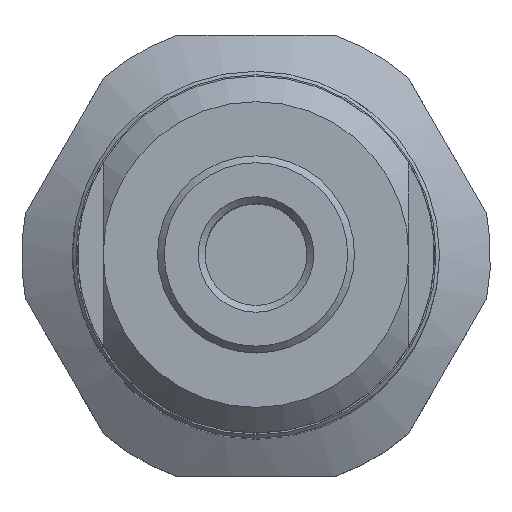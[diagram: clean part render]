
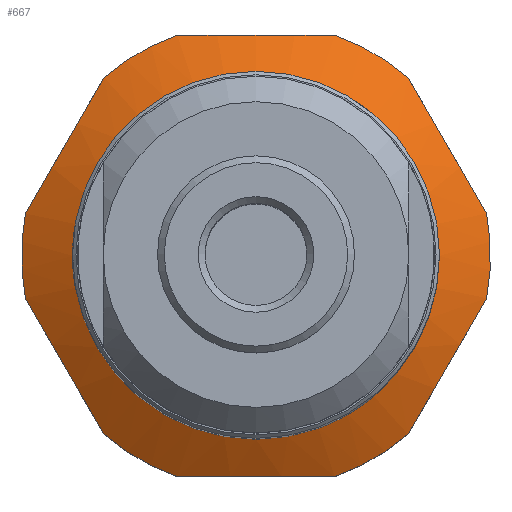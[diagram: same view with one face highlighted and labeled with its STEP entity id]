
A CAD part, top view. The second image highlights one B-rep face of the part: STEP entity #667.
In plain terms, the highlighted conical face has half-angle 60 degrees and reference radius 6.15 mm.
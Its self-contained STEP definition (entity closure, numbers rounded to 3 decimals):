
#58=(
BOUNDED_CURVE()
B_SPLINE_CURVE(2,(#1069,#1070,#1071),.UNSPECIFIED.,.F.,.F.)
B_SPLINE_CURVE_WITH_KNOTS((3,3),(0.,0.465),.UNSPECIFIED.)
CURVE()
GEOMETRIC_REPRESENTATION_ITEM()
RATIONAL_B_SPLINE_CURVE((1.,1.062,1.))
REPRESENTATION_ITEM('')
);
#61=(
BOUNDED_CURVE()
B_SPLINE_CURVE(2,(#1086,#1087,#1088),.UNSPECIFIED.,.F.,.F.)
B_SPLINE_CURVE_WITH_KNOTS((3,3),(0.,0.465),.UNSPECIFIED.)
CURVE()
GEOMETRIC_REPRESENTATION_ITEM()
RATIONAL_B_SPLINE_CURVE((1.,1.062,1.))
REPRESENTATION_ITEM('')
);
#64=(
BOUNDED_CURVE()
B_SPLINE_CURVE(2,(#1103,#1104,#1105),.UNSPECIFIED.,.F.,.F.)
B_SPLINE_CURVE_WITH_KNOTS((3,3),(0.,0.465),.UNSPECIFIED.)
CURVE()
GEOMETRIC_REPRESENTATION_ITEM()
RATIONAL_B_SPLINE_CURVE((1.,1.062,1.))
REPRESENTATION_ITEM('')
);
#67=(
BOUNDED_CURVE()
B_SPLINE_CURVE(2,(#1120,#1121,#1122),.UNSPECIFIED.,.F.,.F.)
B_SPLINE_CURVE_WITH_KNOTS((3,3),(0.,0.465),.UNSPECIFIED.)
CURVE()
GEOMETRIC_REPRESENTATION_ITEM()
RATIONAL_B_SPLINE_CURVE((1.,1.062,1.))
REPRESENTATION_ITEM('')
);
#69=(
BOUNDED_CURVE()
B_SPLINE_CURVE(2,(#1131,#1132,#1133),.UNSPECIFIED.,.F.,.F.)
B_SPLINE_CURVE_WITH_KNOTS((3,3),(0.,0.465),.UNSPECIFIED.)
CURVE()
GEOMETRIC_REPRESENTATION_ITEM()
RATIONAL_B_SPLINE_CURVE((1.,1.062,1.))
REPRESENTATION_ITEM('')
);
#72=(
BOUNDED_CURVE()
B_SPLINE_CURVE(2,(#1148,#1149,#1150),.UNSPECIFIED.,.F.,.F.)
B_SPLINE_CURVE_WITH_KNOTS((3,3),(0.,0.465),.UNSPECIFIED.)
CURVE()
GEOMETRIC_REPRESENTATION_ITEM()
RATIONAL_B_SPLINE_CURVE((1.,1.062,1.))
REPRESENTATION_ITEM('')
);
#86=CONICAL_SURFACE('',#753,6.15,60.);
#103=FACE_BOUND('',#225,.T.);
#166=FACE_OUTER_BOUND('',#224,.T.);
#224=EDGE_LOOP('',(#565,#566,#567,#568,#569,#570,#571,#572,#573,#574,#575,
#576));
#225=EDGE_LOOP('',(#577));
#268=CIRCLE('',#730,6.9);
#269=CIRCLE('',#732,6.9);
#271=CIRCLE('',#735,6.9);
#274=CIRCLE('',#739,6.9);
#275=CIRCLE('',#741,6.9);
#282=CIRCLE('',#754,6.9);
#283=CIRCLE('',#755,5.4);
#316=VERTEX_POINT('',#1066);
#317=VERTEX_POINT('',#1068);
#321=VERTEX_POINT('',#1083);
#322=VERTEX_POINT('',#1085);
#326=VERTEX_POINT('',#1100);
#327=VERTEX_POINT('',#1102);
#331=VERTEX_POINT('',#1117);
#332=VERTEX_POINT('',#1119);
#334=VERTEX_POINT('',#1129);
#335=VERTEX_POINT('',#1130);
#339=VERTEX_POINT('',#1146);
#340=VERTEX_POINT('',#1147);
#344=VERTEX_POINT('',#1189);
#384=EDGE_CURVE('',#317,#316,#58,.T.);
#389=EDGE_CURVE('',#322,#321,#61,.T.);
#394=EDGE_CURVE('',#327,#326,#64,.T.);
#399=EDGE_CURVE('',#332,#331,#67,.T.);
#402=EDGE_CURVE('',#334,#335,#69,.T.);
#407=EDGE_CURVE('',#339,#340,#72,.T.);
#413=EDGE_CURVE('',#339,#335,#268,.T.);
#414=EDGE_CURVE('',#327,#340,#269,.T.);
#416=EDGE_CURVE('',#322,#331,#271,.T.);
#419=EDGE_CURVE('',#332,#326,#274,.T.);
#420=EDGE_CURVE('',#317,#321,#275,.T.);
#427=EDGE_CURVE('',#334,#316,#282,.T.);
#428=EDGE_CURVE('',#344,#344,#283,.T.);
#565=ORIENTED_EDGE('',*,*,#384,.T.);
#566=ORIENTED_EDGE('',*,*,#427,.F.);
#567=ORIENTED_EDGE('',*,*,#402,.T.);
#568=ORIENTED_EDGE('',*,*,#413,.F.);
#569=ORIENTED_EDGE('',*,*,#407,.T.);
#570=ORIENTED_EDGE('',*,*,#414,.F.);
#571=ORIENTED_EDGE('',*,*,#394,.T.);
#572=ORIENTED_EDGE('',*,*,#419,.F.);
#573=ORIENTED_EDGE('',*,*,#399,.T.);
#574=ORIENTED_EDGE('',*,*,#416,.F.);
#575=ORIENTED_EDGE('',*,*,#389,.T.);
#576=ORIENTED_EDGE('',*,*,#420,.F.);
#577=ORIENTED_EDGE('',*,*,#428,.T.);
#667=ADVANCED_FACE('',(#166,#103),#86,.T.);
#730=AXIS2_PLACEMENT_3D('',#1164,#889,#890);
#732=AXIS2_PLACEMENT_3D('',#1166,#893,#894);
#735=AXIS2_PLACEMENT_3D('',#1169,#899,#900);
#739=AXIS2_PLACEMENT_3D('',#1173,#907,#908);
#741=AXIS2_PLACEMENT_3D('',#1175,#911,#912);
#753=AXIS2_PLACEMENT_3D('',#1187,#935,#936);
#754=AXIS2_PLACEMENT_3D('',#1188,#937,#938);
#755=AXIS2_PLACEMENT_3D('',#1190,#939,#940);
#889=DIRECTION('center_axis',(0.,0.,-1.));
#890=DIRECTION('ref_axis',(1.,0.,0.));
#893=DIRECTION('center_axis',(0.,0.,-1.));
#894=DIRECTION('ref_axis',(1.,0.,0.));
#899=DIRECTION('center_axis',(0.,0.,-1.));
#900=DIRECTION('ref_axis',(1.,0.,0.));
#907=DIRECTION('center_axis',(0.,0.,-1.));
#908=DIRECTION('ref_axis',(1.,0.,0.));
#911=DIRECTION('center_axis',(0.,0.,-1.));
#912=DIRECTION('ref_axis',(1.,0.,0.));
#935=DIRECTION('center_axis',(0.,0.,-1.));
#936=DIRECTION('ref_axis',(0.,1.,0.));
#937=DIRECTION('center_axis',(0.,0.,-1.));
#938=DIRECTION('ref_axis',(1.,0.,0.));
#939=DIRECTION('center_axis',(0.,0.,-1.));
#940=DIRECTION('ref_axis',(1.,0.,0.));
#1066=CARTESIAN_POINT('',(6.787,-1.245,-9.466));
#1068=CARTESIAN_POINT('',(4.472,-5.255,-9.466));
#1069=CARTESIAN_POINT('Ctrl Pts',(4.472,-5.255,-9.466));
#1070=CARTESIAN_POINT('Ctrl Pts',(5.629,-3.25,-9.018));
#1071=CARTESIAN_POINT('Ctrl Pts',(6.787,-1.245,-9.466));
#1083=CARTESIAN_POINT('',(2.315,-6.5,-9.466));
#1085=CARTESIAN_POINT('',(-2.315,-6.5,-9.466));
#1086=CARTESIAN_POINT('Ctrl Pts',(-2.315,-6.5,-9.466));
#1087=CARTESIAN_POINT('Ctrl Pts',(0.,-6.5,-9.018));
#1088=CARTESIAN_POINT('Ctrl Pts',(2.315,-6.5,-9.466));
#1100=CARTESIAN_POINT('',(-6.787,1.245,-9.466));
#1102=CARTESIAN_POINT('',(-4.472,5.255,-9.466));
#1103=CARTESIAN_POINT('Ctrl Pts',(-4.472,5.255,-9.466));
#1104=CARTESIAN_POINT('Ctrl Pts',(-5.629,3.25,-9.018));
#1105=CARTESIAN_POINT('Ctrl Pts',(-6.787,1.245,-9.466));
#1117=CARTESIAN_POINT('',(-4.472,-5.255,-9.466));
#1119=CARTESIAN_POINT('',(-6.787,-1.245,-9.466));
#1120=CARTESIAN_POINT('Ctrl Pts',(-6.787,-1.245,-9.466));
#1121=CARTESIAN_POINT('Ctrl Pts',(-5.629,-3.25,-9.018));
#1122=CARTESIAN_POINT('Ctrl Pts',(-4.472,-5.255,-9.466));
#1129=CARTESIAN_POINT('',(6.787,1.245,-9.466));
#1130=CARTESIAN_POINT('',(4.472,5.255,-9.466));
#1131=CARTESIAN_POINT('Ctrl Pts',(6.787,1.245,-9.466));
#1132=CARTESIAN_POINT('Ctrl Pts',(5.629,3.25,-9.018));
#1133=CARTESIAN_POINT('Ctrl Pts',(4.472,5.255,-9.466));
#1146=CARTESIAN_POINT('',(2.315,6.5,-9.466));
#1147=CARTESIAN_POINT('',(-2.315,6.5,-9.466));
#1148=CARTESIAN_POINT('Ctrl Pts',(2.315,6.5,-9.466));
#1149=CARTESIAN_POINT('Ctrl Pts',(0.,6.5,-9.018));
#1150=CARTESIAN_POINT('Ctrl Pts',(-2.315,6.5,-9.466));
#1164=CARTESIAN_POINT('Origin',(0.,0.,-9.466));
#1166=CARTESIAN_POINT('Origin',(0.,0.,-9.466));
#1169=CARTESIAN_POINT('Origin',(0.,0.,-9.466));
#1173=CARTESIAN_POINT('Origin',(0.,0.,-9.466));
#1175=CARTESIAN_POINT('Origin',(0.,0.,-9.466));
#1187=CARTESIAN_POINT('Origin',(0.,0.,-9.033));
#1188=CARTESIAN_POINT('Origin',(0.,0.,-9.466));
#1189=CARTESIAN_POINT('',(0.,5.4,-8.6));
#1190=CARTESIAN_POINT('Origin',(0.,0.,-8.6));
